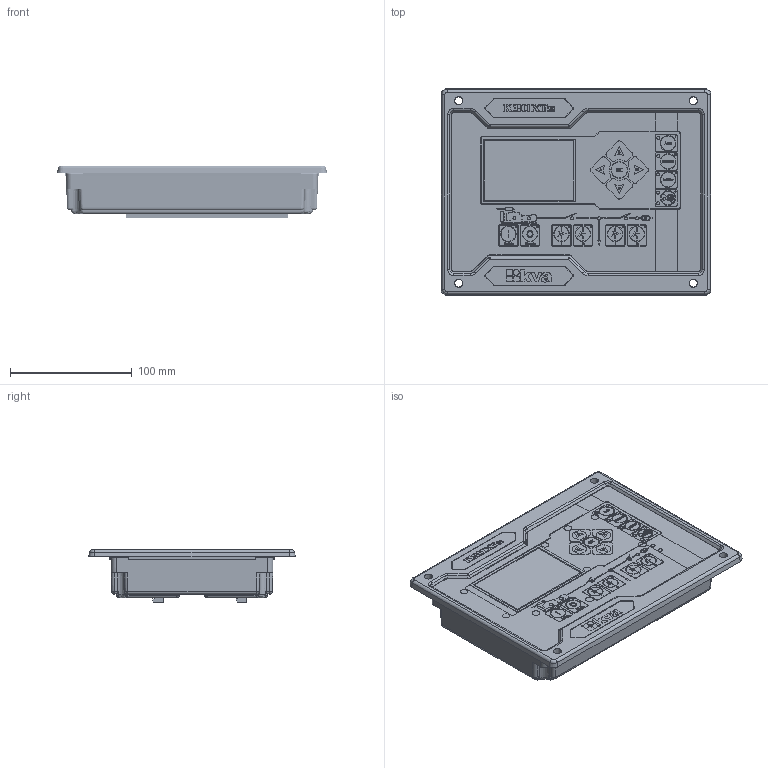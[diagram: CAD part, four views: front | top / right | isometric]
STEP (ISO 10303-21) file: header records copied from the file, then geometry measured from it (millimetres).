
FILE_DESCRIPTION (( 'STEP AP214' ), '1' );
FILE_NAME ('KVA-K30XTE-M01_PA.STEP', '2023-10-30T08:31:57', ( '' ), ( '' ), 'SwSTEP 2.0', 'SolidWorks 2021', '' );
FILE_SCHEMA (( 'AUTOMOTIVE_DESIGN' ));
Length unit declared in the file: millimetre
Products named in the file (7): KVA-K30XTE-P01_PA; KVA-K30XTE-P04_PA; KVA-K30XTE-M01_PA; KVA-K30XTE-PCI1_PA; KVA-K30XTE-P02_PA; KVA-K30XTE-P05_PA; KVA-K30XTE-P06_PA
Assembly tree (6 placements, depth 2):
  KVA-K30XTE-M01_PA
    KVA-K30XTE-P01_PA
    KVA-K30XTE-P02_PA
    KVA-K30XTE-PCI1_PA
    KVA-K30XTE-P04_PA
    KVA-K30XTE-P05_PA
    KVA-K30XTE-P06_PA
Bounding box: 222 x 170 x 43.38 mm (x, y, z)
Volume: 257771.5 mm3; surface area: 303384.1 mm2
Topology: 22 solids, 22 shells, 7683 faces, 20082 edges, 12938 vertices
Faces by surface type: plane 4823, bspline 1284, cylinder 1079, cone 305, sphere 184, torus 8
Entity records: 298811 total; most frequent: CARTESIAN_POINT 62402, ORIENTED_EDGE 40152, DIRECTION 33467, EDGE_CURVE 20076, VECTOR 13627, LINE 13627, VERTEX_POINT 12938, AXIS2_PLACEMENT_3D 9920
